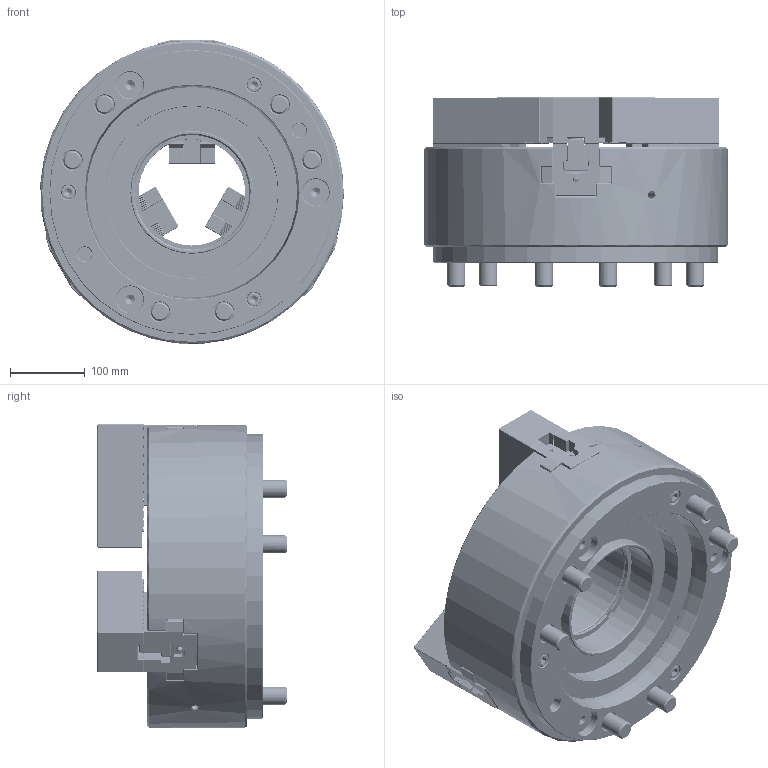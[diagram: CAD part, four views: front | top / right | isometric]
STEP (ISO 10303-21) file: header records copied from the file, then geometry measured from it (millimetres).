
FILE_DESCRIPTION(/* description */ (''),/* implementation_level */ '2;1');
FILE_NAME(/* name */ '\\Itserver\個人資料夾\柯玫如\8.網頁3D討論\1.中空油壓系列\1-1中空油壓夾頭\OPB系列\OPB-215\OPB-215-A15.stp',/* time_stamp */ '2024-11-18T15:51:53+08:00',/* author */ ('034'),/* organization */ (''),/* preprocessor_version */ 'ST-DEVELOPER v16.13',/* originating_system */ 'Autodesk Inventor 2018',/* authorisation */ '');
FILE_SCHEMA (('AUTOMOTIVE_DESIGN { 1 0 10303 214 3 1 1 }'));
Products named in the file (1): OPB-215-A15
Bounding box: 404.7 x 252.29 x 405.1 mm (x, y, z)
Volume: 16688071.1 mm3; surface area: 1104247.2 mm2
Topology: 1 solids, 50 shells, 9056 faces, 31143 edges, 20601 vertices
Faces by surface type: plane 6028, cylinder 2230, bspline 427, cone 275, torus 57, sphere 39
Full cylindrical faces by diameter (mm): 3 x24, 3.4 x6, 4 x12, 4.5 x6, 5.1 x6, 6 x6, 7 x6, 7.53 x6, 10 x6, 10.3 x13, 11 x6, 12 x3, 13 x3, 18 x3, 19 x5, 20 x6, 21 x6, 24 x6, 26 x12, 30 x8, 32 x6, 35.7 x3, 36 x6, 38 x6, 60 x4, 142.1 x1, 145.5 x1, 148.2 x1, 148.6 x1, 150.846 x1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
Entity records: 336306 total; most frequent: CARTESIAN_POINT 66628, ORIENTED_EDGE 60808, DIRECTION 52432, EDGE_CURVE 30398, LINE 23352, VECTOR 23352, VERTEX_POINT 20317, AXIS2_PLACEMENT_3D 14540
